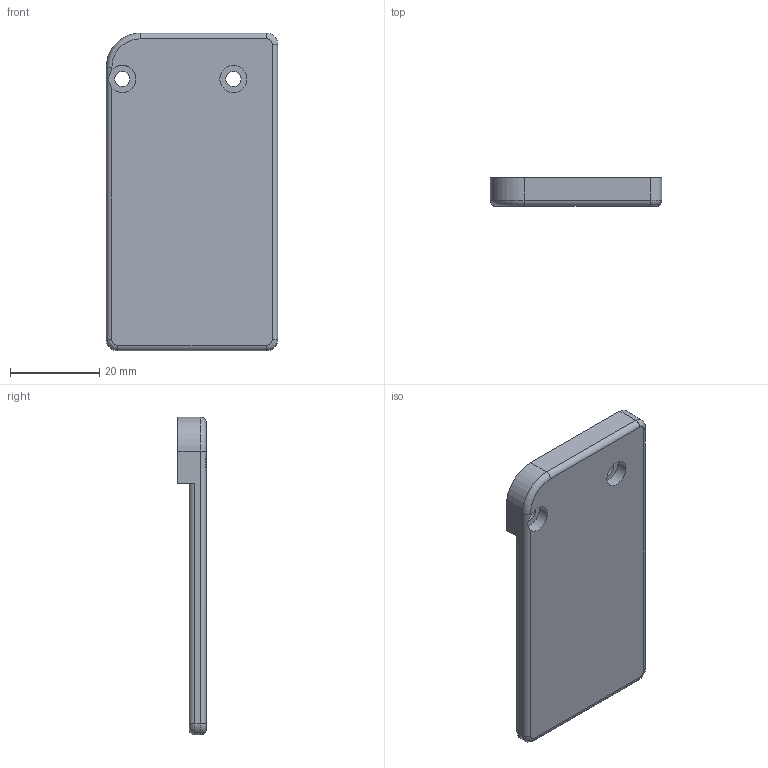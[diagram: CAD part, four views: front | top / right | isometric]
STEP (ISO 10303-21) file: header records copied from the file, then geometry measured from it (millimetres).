
FILE_DESCRIPTION(/* description */ (''),/* implementation_level */ '2;1');
FILE_NAME(/* name */ 'Strap Clip.step',/* time_stamp */ '2026-02-11T07:26:26-06:00',/* author */ (''),/* organization */ (''),/* preprocessor_version */ 'ST-DEVELOPER v20.1',/* originating_system */ 'Autodesk Translation Framework v14.24.0.0',/* authorisation */ '');
FILE_SCHEMA (('AUTOMOTIVE_DESIGN { 1 0 10303 214 3 1 1 }'));
Length unit declared in the file: inch
Products named in the file (1): Clip
Bounding box: 38.53 x 6.35 x 71.37 mm (x, y, z)
Volume: 11490.4 mm3; surface area: 6484.1 mm2
Topology: 1 solids, 1 shells, 31 faces, 72 edges, 44 vertices
Faces by surface type: cylinder 15, plane 10, bspline 5, torus 1
Full cylindrical faces by diameter (mm): 3.429 x2, 6.096 x2
Entity records: 962 total; most frequent: CARTESIAN_POINT 198, DIRECTION 160, ORIENTED_EDGE 144, EDGE_CURVE 72, AXIS2_PLACEMENT_3D 63, VERTEX_POINT 44, EDGE_LOOP 36, CIRCLE 36
